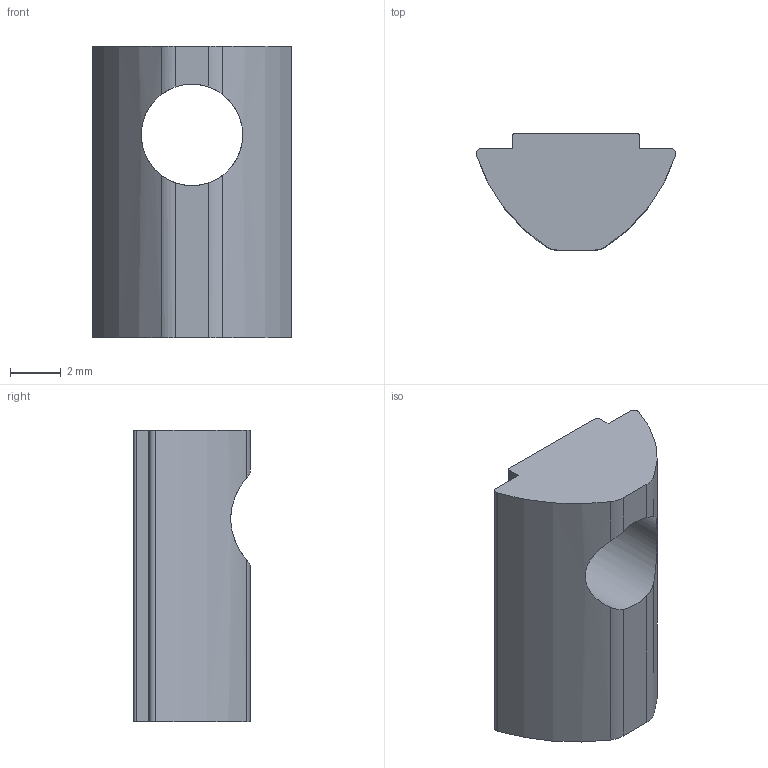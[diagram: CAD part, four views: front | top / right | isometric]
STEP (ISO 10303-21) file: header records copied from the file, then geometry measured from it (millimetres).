
FILE_DESCRIPTION((''),'2;1');
FILE_NAME('C:\TurckZip\MN-M4-Q25.stp','2009-04-09T14:35:11',('IKOROL'),(''),'Autodesk Inventor 2009','Autodesk Inventor 2009','');
FILE_SCHEMA(('CONFIG_CONTROL_DESIGN'));
Length unit declared in the file: millimetre
Products named in the file (1): Part4
Bounding box: 7.86 x 4.6 x 11.5 mm (x, y, z)
Volume: 243 mm3; surface area: 319.1 mm2
Topology: 1 solids, 1 shells, 21 faces, 59 edges, 39 vertices
Faces by surface type: cylinder 11, plane 9, cone 1
Full cylindrical faces by diameter (mm): 4 x1
Entity records: 741 total; most frequent: CARTESIAN_POINT 182, DIRECTION 114, ORIENTED_EDGE 112, EDGE_CURVE 56, AXIS2_PLACEMENT_3D 42, VERTEX_POINT 38, VECTOR 30, LINE 30
